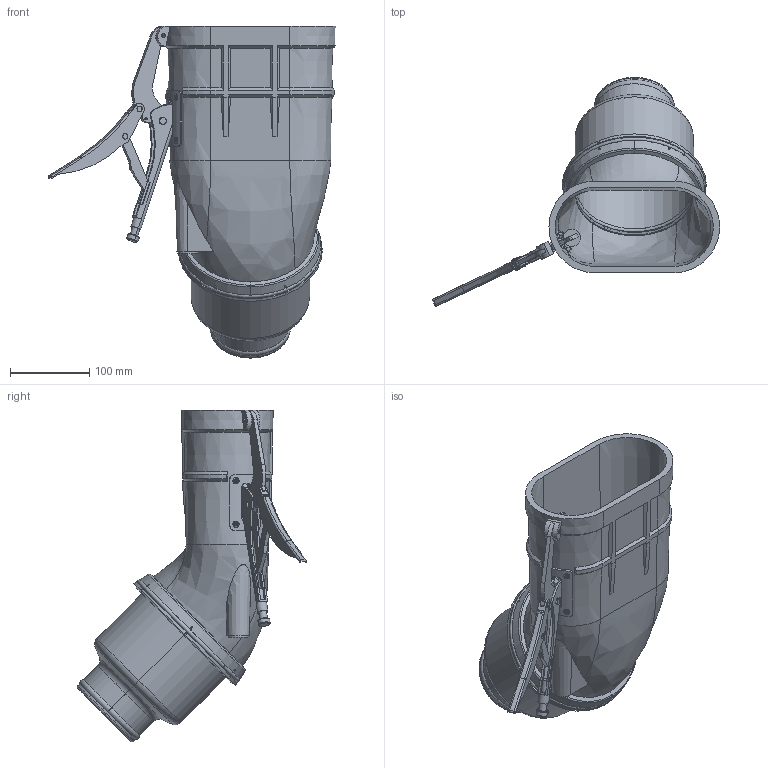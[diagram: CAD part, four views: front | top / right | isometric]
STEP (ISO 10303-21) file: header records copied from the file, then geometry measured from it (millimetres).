
FILE_DESCRIPTION((''),'2;1');
FILE_NAME('124233','2019-06-13T15:31:02',('Tomas Bellgran'),(''),'CREO PARAMETRIC BY PTC INC, 2018260','CREO PARAMETRIC BY PTC INC, 2018260','');
FILE_SCHEMA(('AUTOMOTIVE_DESIGN { 1 0 10303 214 1 1 1 1 }'));
Length unit declared in the file: millimetre
Products named in the file (11): 123944; 9531238; 145-214-1_FASTE; BOSS-EXTRUDE12; BOSS-EXTRUDE14; 145-214-2_TANG; 145-214; 145-214-4; 124209; 123735; 124233
Assembly tree (13 placements, depth 4):
  124233
    123944
    9531238
    145-214
      145-214-1_FASTE
      145-214-2_TANG
        BOSS-EXTRUDE12
        BOSS-EXTRUDE14
    145-214-4
    124209  x4
    123735
Bounding box: 363.48 x 290.17 x 419.91 mm (x, y, z)
Volume: 1149170.6 mm3; surface area: 579056.9 mm2
Topology: 11 solids, 13 shells, 574 faces, 1523 edges, 975 vertices
Faces by surface type: plane 208, cylinder 196, cone 67, torus 60, bspline 29, sphere 8, extrusion 6
Entity records: 29168 total; most frequent: CARTESIAN_POINT 9073, ORIENTED_EDGE 2892, DIRECTION 2860, EDGE_CURVE 1451, PRESENTATION_STYLE_ASSIGNMENT 1130, STYLED_ITEM 1130, CURVE_STYLE 1121, AXIS2_PLACEMENT_3D 1092
